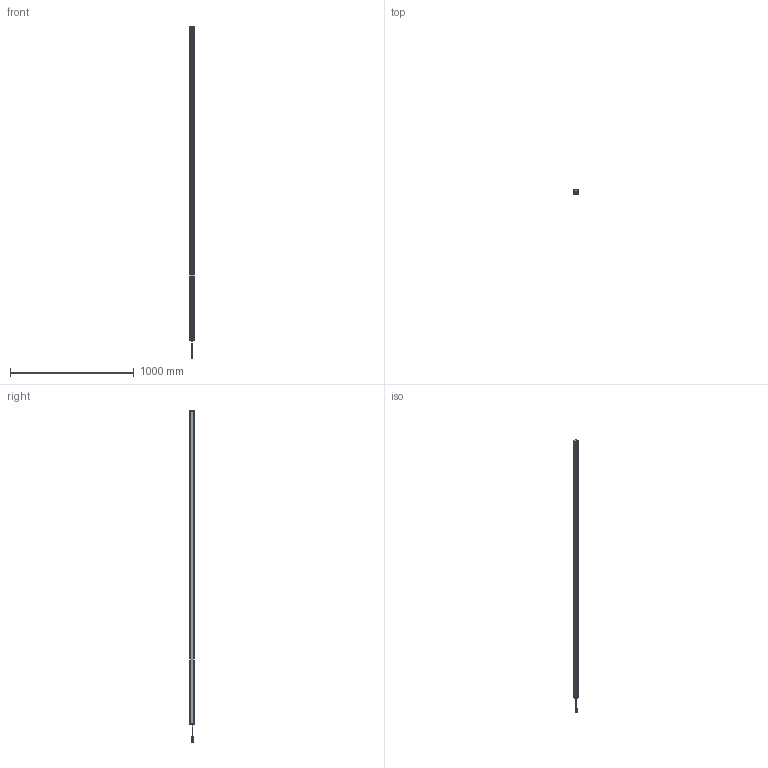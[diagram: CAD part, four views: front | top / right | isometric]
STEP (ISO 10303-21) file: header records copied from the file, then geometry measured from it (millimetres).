
FILE_DESCRIPTION((''),'2;1');
FILE_NAME('PRT0007','2026-04-01T16:08:59',('Administrator'),(''),'CREO PARAMETRIC BY PTC INC, 2016510','CREO PARAMETRIC BY PTC INC, 2016510','');
FILE_SCHEMA(('AUTOMOTIVE_DESIGN { 1 0 10303 214 1 1 1 1 }'));
Length unit declared in the file: millimetre
Products named in the file (1): PRT0007
Bounding box: 33 x 38 x 2681.9 mm (x, y, z)
Surface area: 542100.4 mm2 (no closed solid volume)
Topology: 0 solids, 12 shells, 622 faces, 1751 edges, 1149 vertices
Faces by surface type: plane 301, cylinder 225, torus 32, sphere 32, cone 28, bspline 4
Entity records: 25234 total; most frequent: CARTESIAN_POINT 4765, ORIENTED_EDGE 3414, DIRECTION 3354, EDGE_CURVE 1707, AXIS2_PLACEMENT_3D 1223, VERTEX_POINT 1149, VECTOR 908, LINE 908
